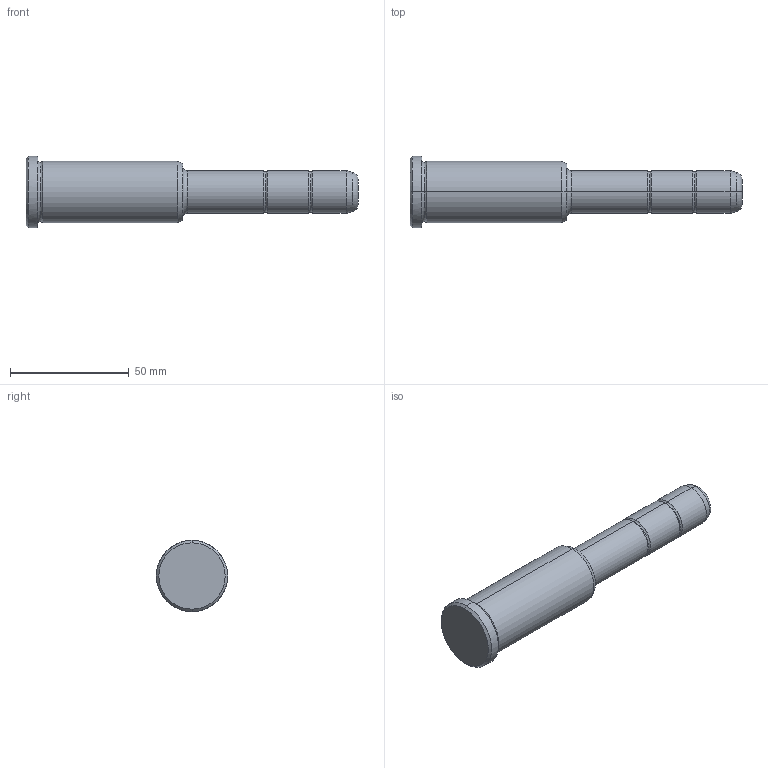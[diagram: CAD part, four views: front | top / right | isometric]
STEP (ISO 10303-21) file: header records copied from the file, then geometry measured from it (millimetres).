
FILE_DESCRIPTION(('CATIA V5 STEP Exchange'),'2;1');
FILE_NAME('C:\Users\Utente\Desktop\IO LAVORO\3D X SITO CF\X SITO\PLASTICA\351\351-18X66X140.stp','2021-08-27T11:21:40+00:00',('none'),('none'),'CATIA Version 5 Release 20 GA (IN-10)','CATIA V5 STEP AP203','none');
FILE_SCHEMA(('CONFIG_CONTROL_DESIGN'));
Length unit declared in the file: millimetre
Products named in the file (1): 351-18X66X140
Bounding box: 140 x 30 x 30 mm (x, y, z)
Volume: 54319.5 mm3; surface area: 10821.8 mm2
Topology: 1 solids, 1 shells, 36 faces, 102 edges, 70 vertices
Faces by surface type: torus 16, cylinder 10, cone 6, plane 4
Entity records: 1292 total; most frequent: CARTESIAN_POINT 321, ORIENTED_EDGE 204, DIRECTION 166, AXIS2_PLACEMENT_3D 115, EDGE_CURVE 102, CIRCLE 78, VERTEX_POINT 70, EDGE_LOOP 38
